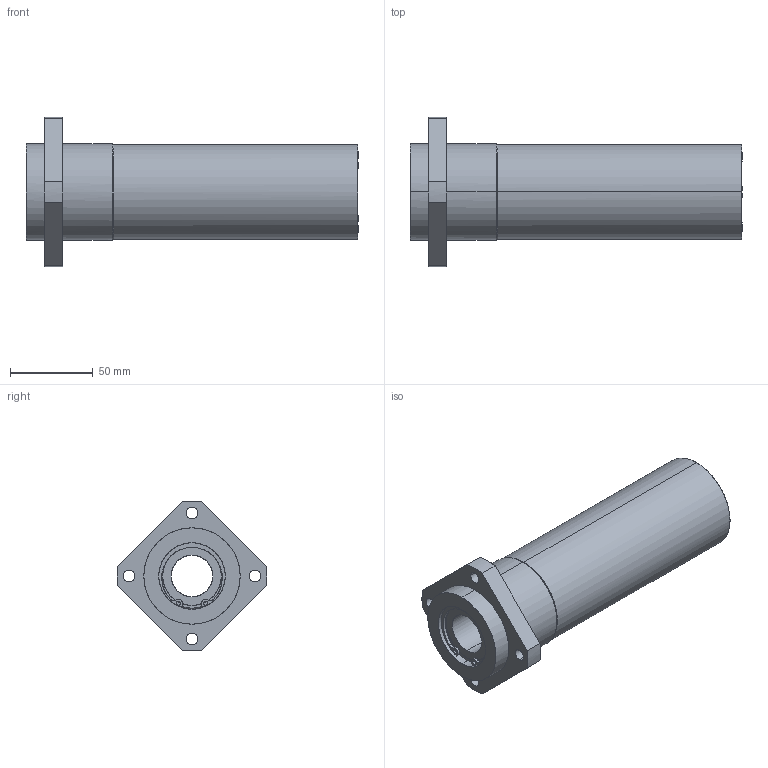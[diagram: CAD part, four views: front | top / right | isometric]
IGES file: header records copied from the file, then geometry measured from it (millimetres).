
Global section: file name: No Iges File Name specified; native system: AutoDesk Inventor R11.0; preprocessor: AutoDesk Inventor Iges Exporter R11.0; author: No Author specified; organization: No Organization specified; date: 20170922.140218; units: millimetre
Bounding box: 200 x 89.99 x 89.99 mm (x, y, z)
Surface area: 69352.7 mm2 (no closed solid volume)
Topology: 0 solids, 0 shells, 133 faces, 980 edges, 980 vertices
Faces by surface type: bspline 133
